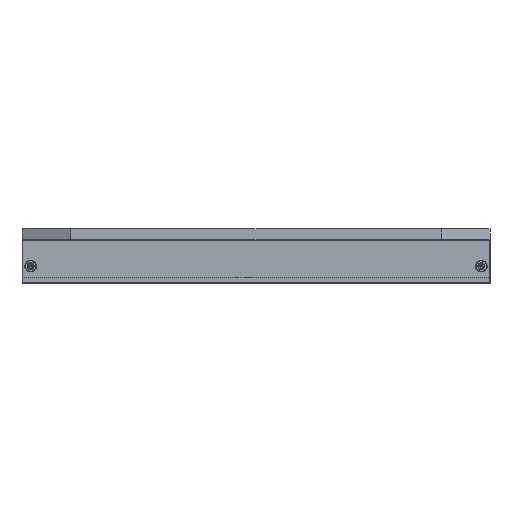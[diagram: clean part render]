
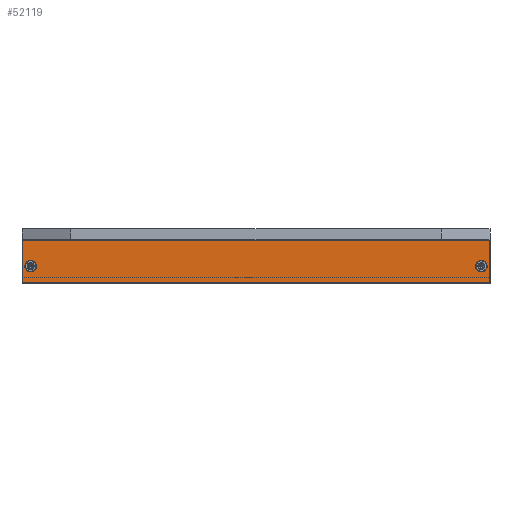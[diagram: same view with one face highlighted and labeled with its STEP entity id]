
A CAD part, front view. The second image highlights one B-rep face of the part: STEP entity #52119.
In plain terms, the highlighted planar face has unit normal (0, -1, 0).
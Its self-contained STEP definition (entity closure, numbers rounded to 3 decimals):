
#4541=DIRECTION('',(-1.,0.,0.));
#4542=VECTOR('',#4541,162.6);
#4543=CARTESIAN_POINT('',(81.3,-131.5,0.));
#4544=LINE('',#4543,#4542);
#18650=DIRECTION('',(0.,0.,-1.));
#18651=VECTOR('',#18650,14.8);
#18652=CARTESIAN_POINT('',(81.3,-131.5,0.));
#18653=LINE('',#18652,#18651);
#18654=CARTESIAN_POINT('',(-78.5,-131.5,-9.));
#18655=DIRECTION('',(0.,1.,0.));
#18656=DIRECTION('',(0.,0.,1.));
#18657=AXIS2_PLACEMENT_3D('',#18654,#18655,#18656);
#18659=CARTESIAN_POINT('',(-78.5,-131.5,-9.));
#18660=DIRECTION('',(0.,1.,0.));
#18661=DIRECTION('',(0.,0.,-1.));
#18662=AXIS2_PLACEMENT_3D('',#18659,#18660,#18661);
#18664=CARTESIAN_POINT('',(78.5,-131.5,-9.));
#18665=DIRECTION('',(0.,1.,0.));
#18666=DIRECTION('',(0.,0.,-1.));
#18667=AXIS2_PLACEMENT_3D('',#18664,#18665,#18666);
#18669=CARTESIAN_POINT('',(78.5,-131.5,-9.));
#18670=DIRECTION('',(0.,1.,0.));
#18671=DIRECTION('',(0.,0.,1.));
#18672=AXIS2_PLACEMENT_3D('',#18669,#18670,#18671);
#18674=DIRECTION('',(1.,0.,0.));
#18675=VECTOR('',#18674,162.6);
#18676=CARTESIAN_POINT('',(-81.3,-131.5,-14.8));
#18677=LINE('',#18676,#18675);
#18678=DIRECTION('',(0.,0.,-1.));
#18679=VECTOR('',#18678,14.8);
#18680=CARTESIAN_POINT('',(-81.3,-131.5,0.));
#18681=LINE('',#18680,#18679);
#20883=CARTESIAN_POINT('',(-81.3,-131.5,-14.8));
#20884=VERTEX_POINT('',#20883);
#20891=CARTESIAN_POINT('',(81.3,-131.5,-14.8));
#20892=VERTEX_POINT('',#20891);
#20893=CARTESIAN_POINT('',(78.5,-131.5,-7.));
#20894=CARTESIAN_POINT('',(78.5,-131.5,-11.));
#20895=VERTEX_POINT('',#20893);
#20896=VERTEX_POINT('',#20894);
#20897=CARTESIAN_POINT('',(-78.5,-131.5,-11.));
#20898=CARTESIAN_POINT('',(-78.5,-131.5,-7.));
#20899=VERTEX_POINT('',#20897);
#20900=VERTEX_POINT('',#20898);
#24172=CARTESIAN_POINT('',(-81.3,-131.5,0.));
#24174=VERTEX_POINT('',#24172);
#24175=CARTESIAN_POINT('',(81.3,-131.5,0.));
#24176=VERTEX_POINT('',#24175);
#52095=CARTESIAN_POINT('',(-81.5,-131.5,-15.));
#52096=DIRECTION('',(0.,-1.,0.));
#52097=DIRECTION('',(0.,0.,1.));
#52098=AXIS2_PLACEMENT_3D('',#52095,#52096,#52097);
#52099=PLANE('',#52098);
#52100=ORIENTED_EDGE('',*,*,#52090,.T.);
#52101=ORIENTED_EDGE('',*,*,#52060,.F.);
#52103=ORIENTED_EDGE('',*,*,#52102,.F.);
#52104=ORIENTED_EDGE('',*,*,#31284,.F.);
#52105=EDGE_LOOP('',(#52100,#52101,#52103,#52104));
#52106=FACE_OUTER_BOUND('',#52105,.F.);
#52108=ORIENTED_EDGE('',*,*,#52107,.F.);
#52110=ORIENTED_EDGE('',*,*,#52109,.F.);
#52111=EDGE_LOOP('',(#52108,#52110));
#52112=FACE_BOUND('',#52111,.F.);
#52114=ORIENTED_EDGE('',*,*,#52113,.F.);
#52116=ORIENTED_EDGE('',*,*,#52115,.F.);
#52117=EDGE_LOOP('',(#52114,#52116));
#52118=FACE_BOUND('',#52117,.F.);
#52119=ADVANCED_FACE('',(#52106,#52112,#52118),#52099,.T.);
#18658=CIRCLE('',#18657,2.);
#18663=CIRCLE('',#18662,2.);
#18668=CIRCLE('',#18667,2.);
#18673=CIRCLE('',#18672,2.);
#31284=EDGE_CURVE('',#24176,#24174,#4544,.T.);
#52060=EDGE_CURVE('',#20884,#20892,#18677,.T.);
#52090=EDGE_CURVE('',#24176,#20892,#18653,.T.);
#52102=EDGE_CURVE('',#24174,#20884,#18681,.T.);
#52107=EDGE_CURVE('',#20896,#20895,#18668,.T.);
#52109=EDGE_CURVE('',#20895,#20896,#18673,.T.);
#52113=EDGE_CURVE('',#20900,#20899,#18658,.T.);
#52115=EDGE_CURVE('',#20899,#20900,#18663,.T.);
